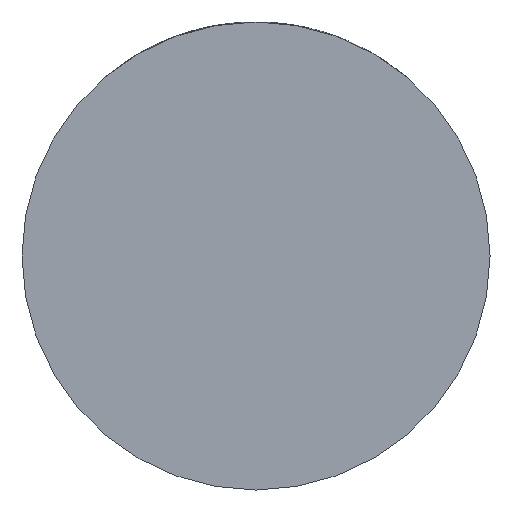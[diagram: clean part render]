
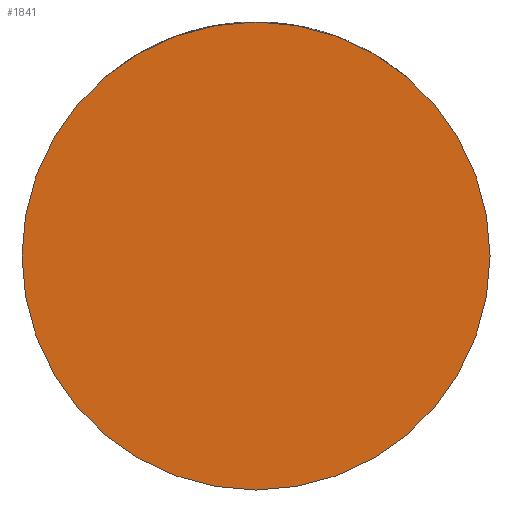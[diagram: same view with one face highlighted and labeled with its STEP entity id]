
A CAD part, front view. The second image highlights one B-rep face of the part: STEP entity #1841.
In plain terms, the highlighted planar face has unit normal (0, -1, 0).
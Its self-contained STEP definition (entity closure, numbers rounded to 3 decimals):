
#162 = CARTESIAN_POINT ( 'NONE',  ( 0., -28., 0. ) ) ;
#491 = EDGE_CURVE ( 'NONE', #4216, #2855, #2391, .T. ) ;
#501 = FACE_OUTER_BOUND ( 'NONE', #1513, .T. ) ;
#1129 = ORIENTED_EDGE ( 'NONE', *, *, #2841, .T. ) ;
#1513 = EDGE_LOOP ( 'NONE', ( #2608, #1129 ) ) ;
#1544 = DIRECTION ( 'NONE',  ( 0., -1., 0. ) ) ;
#1816 = DIRECTION ( 'NONE',  ( 1., 0., 0. ) ) ;
#1841 = ADVANCED_FACE ( 'NONE', ( #501 ), #1882, .T. ) ;
#1882 = PLANE ( 'NONE',  #2015 ) ;
#2015 = AXIS2_PLACEMENT_3D ( 'NONE', #162, #1544, #4253 ) ;
#2143 = CIRCLE ( 'NONE', #2994, 32. ) ;
#2391 = CIRCLE ( 'NONE', #3970, 32. ) ;
#2608 = ORIENTED_EDGE ( 'NONE', *, *, #491, .T. ) ;
#2788 = CARTESIAN_POINT ( 'NONE',  ( 0., -28., 0. ) ) ;
#2841 = EDGE_CURVE ( 'NONE', #2855, #4216, #2143, .T. ) ;
#2850 = DIRECTION ( 'NONE',  ( 0., -1., 0. ) ) ;
#2855 = VERTEX_POINT ( 'NONE', #3876 ) ;
#2889 = DIRECTION ( 'NONE',  ( 1., 0., 0. ) ) ;
#2994 = AXIS2_PLACEMENT_3D ( 'NONE', #3165, #2850, #2889 ) ;
#3165 = CARTESIAN_POINT ( 'NONE',  ( 0., -28., 0. ) ) ;
#3811 = CARTESIAN_POINT ( 'NONE',  ( -32., -28., 0. ) ) ;
#3867 = DIRECTION ( 'NONE',  ( 0., -1., 0. ) ) ;
#3876 = CARTESIAN_POINT ( 'NONE',  ( 32., -28., 0. ) ) ;
#3970 = AXIS2_PLACEMENT_3D ( 'NONE', #2788, #3867, #1816 ) ;
#4216 = VERTEX_POINT ( 'NONE', #3811 ) ;
#4253 = DIRECTION ( 'NONE',  ( 1., 0., 0. ) ) ;
